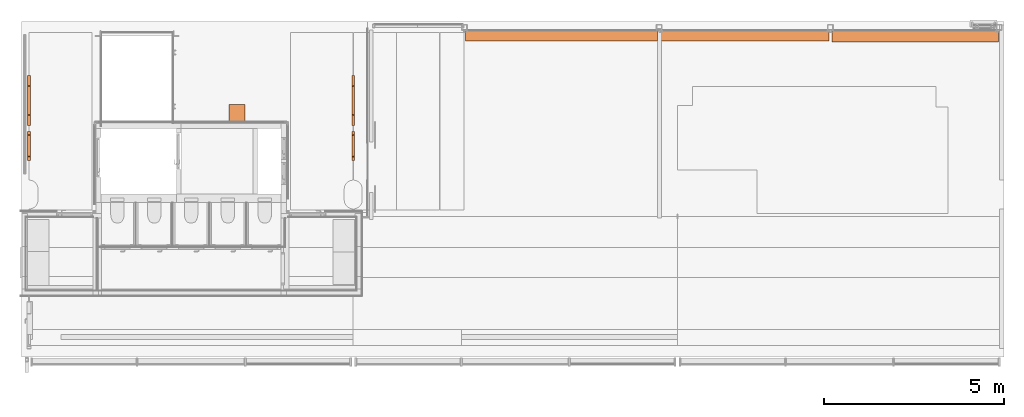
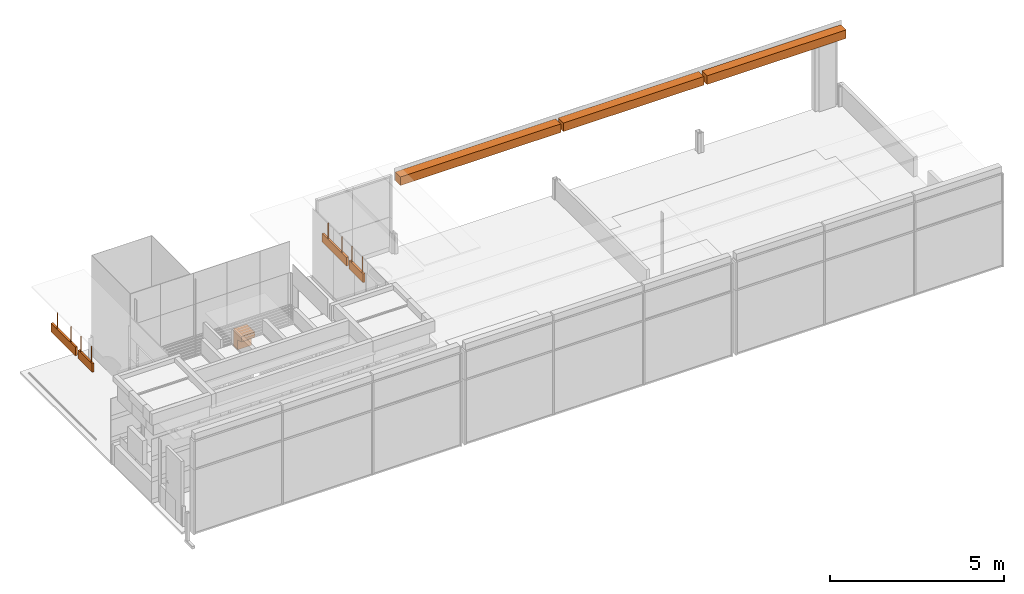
# One storey, part 25 of 26: 8 proxies.
"""IFC2X3 building model written with IfcOpenShell, lengths in millimetres."""

from ifc_helpers import new_model, entity, si_unit, converted_unit, derived_unit, direction, frame, frame_2d, origin, origin_with_axes, origin_2d_with_axis, place, context, subcontext, project, spatial, polyline, rectangle, circle, outline, extrude, source, transform, mapped, material, type_object, element, save


model = new_model("IFC2X3")

# Units and contexts
model_context = context("Model", 3, precision=0.01, world=frame((0.0, 4.29681676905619e-09, 0.0)), true_north=direction((4.01073788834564e-13, 1.0)))
plan_context = context("Plan", 3, precision=0.01, world=frame((0.0, 4.29681676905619e-09, 0.0)), true_north=direction((4.01073788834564e-13, 1.0)))
body_context = subcontext(model_context, "Body", "Model", "MODEL_VIEW")
ifc_project = project(units=[converted_unit("PLANEANGLEUNIT", "DEGREE", entity("IfcPositiveLengthMeasure", 0.0174532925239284), si_unit("PLANEANGLEUNIT", "RADIAN"), dimensions=[0, 0, 0, 0, 0, 0, 0]), si_unit("AREAUNIT", "SQUARE_METRE"), si_unit("LENGTHUNIT", "METRE", prefix="MILLI"), si_unit("MASSUNIT", "GRAM", prefix="KILO"), si_unit("POWERUNIT", "WATT"), si_unit("PRESSUREUNIT", "PASCAL", prefix="KILO"), si_unit("FORCEUNIT", "NEWTON", prefix="KILO"), si_unit("ELECTRICVOLTAGEUNIT", "VOLT"), si_unit("ELECTRICCURRENTUNIT", "AMPERE"), si_unit("THERMODYNAMICTEMPERATUREUNIT", "DEGREE_CELSIUS"), si_unit("TIMEUNIT", "SECOND"), si_unit("VOLUMEUNIT", "CUBIC_METRE"), derived_unit("LINEARVELOCITYUNIT", [(si_unit("LENGTHUNIT", "METRE"), 1), (si_unit("TIMEUNIT", "SECOND"), -1)]), derived_unit("VOLUMETRICFLOWRATEUNIT", [(si_unit("VOLUMEUNIT", "CUBIC_METRE"), 1), (si_unit("TIMEUNIT", "SECOND"), -1)]), derived_unit("THERMALTRANSMITTANCEUNIT", [(si_unit("POWERUNIT", "WATT"), 1), (si_unit("THERMODYNAMICTEMPERATUREUNIT", "KELVIN"), -1), (si_unit("AREAUNIT", "SQUARE_METRE"), -1)]), derived_unit("SOUNDPRESSUREUNIT", [(si_unit("PRESSUREUNIT", "PASCAL"), 1)])], contexts=[model_context, plan_context])

# Site, building, storey
site_placement = place(None, origin_with_axes())
site = spatial("IfcSite", under=ifc_project, at=site_placement, Name="ENGM", CompositionType="ELEMENT")
building_placement = place(site_placement, origin_with_axes())
building = spatial("IfcBuilding", under=site, at=building_placement, Name="TG", CompositionType="ELEMENT")
storey_placement = place(building_placement, frame((0.0, 0.0, 210200.0), z_axis=(0.0, 0.0, 1.0), x_axis=(1.0, 0.0, 0.0)))
storey = spatial("IfcBuildingStorey", under=building, at=storey_placement, Name="Nivå F - 0,7 m", CompositionType="ELEMENT", Elevation=210200.0)

# Proxies
ifc_material = material(Name="<Unnamed>")
building_element_proxy_type_1 = type_object("IfcBuildingElementProxyType", Name="A270 - eksisterende skilt Pendel_T1:A270 - 800x300mm", PredefinedType="NOTDEFINED", material=ifc_material)
shared_shape_1 = source(origin(), body_context, "Body", "SweptSolid", [
    extrude(circle(Radius=15.0, at=frame_2d((6.27883162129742e-16, 3.38395977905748e-14), x_axis=(1.0, 0.0))), frame((300.0, 0.18525956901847, 2550.0), z_axis=(0.0, 0.0, 1.0), x_axis=(0.0, -1.0, 0.0)), (0.0, 0.0, 1.0), 540.0),
    extrude(circle(Radius=15.0, at=frame_2d((6.27883162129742e-16, -3.38395977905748e-14), x_axis=(1.0, 0.0))), frame((-300.0, 0.18525956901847, 2550.0), z_axis=(0.0, 0.0, 1.0), x_axis=(0.0, -1.0, 0.0)), (0.0, 0.0, 1.0), 540.0),
    extrude(rectangle(XDim=800.0, YDim=69.9999999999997, at=origin_2d_with_axis()), frame((0.0, 0.0, 2250.0), z_axis=(0.0, 0.0, 1.0), x_axis=(-1.0, 0.0, 0.0)), (0.0, 0.0, 1.0), 300.0),
])
for number, where, z_axis, x_axis in (
    (1, (322000.000000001, 464051.287500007, 1.30967237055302e-09), (0.0, 0.0, 1.0), (0.0, 1.0, 0.0)),
    (2, (331000.000000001, 464051.287500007, 1.30967237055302e-09), (0.0, 0.0, 1.0), (0.0, 1.0, 0.0)),
):
    element("IfcBuildingElementProxy", number, at=place(storey_placement, frame(where, z_axis=z_axis, x_axis=x_axis)), inside=storey, type_object=building_element_proxy_type_1, material=ifc_material, Name="A270 - eksisterende skilt Pendel_T1:A270 - 800x300mm", ObjectType="A270 - eksisterende skilt Pendel_T1:A270 - 800x300mm", context=body_context, shape_type="MappedRepresentation", body=[
        mapped(shared_shape_1, transform((0.0, 0.0, 0.0), scale=1.0)),
    ])
building_element_proxy_type_2 = type_object("IfcBuildingElementProxyType", Name="A270 - eksisterende skilt Pendel_T1:A270 - 1400x300mm", PredefinedType="NOTDEFINED", material=ifc_material)
shared_shape_2 = source(origin(), body_context, "Body", "SweptSolid", [
    extrude(circle(Radius=15.0, at=frame_2d((6.27883162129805e-16, 1.18505358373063e-30), x_axis=(1.0, 0.0))), frame((400.0, 0.18525956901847, 2550.0), z_axis=(0.0, 0.0, 1.0), x_axis=(0.0, -1.0, 0.0)), (0.0, 0.0, 1.0), 540.0),
    extrude(circle(Radius=15.0, at=frame_2d((6.27883162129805e-16, -1.18505358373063e-30), x_axis=(1.0, 0.0))), frame((-400.0, 0.18525956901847, 2550.0), z_axis=(0.0, 0.0, 1.0), x_axis=(0.0, -1.0, 0.0)), (0.0, 0.0, 1.0), 540.0),
    extrude(rectangle(XDim=1400.0, YDim=69.9999999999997, at=origin_2d_with_axis()), frame((0.0, 0.0, 2250.0), z_axis=(0.0, 0.0, 1.0), x_axis=(-1.0, 0.0, 0.0)), (0.0, 0.0, 1.0), 300.0),
])
for number, where, z_axis, x_axis in (
    (3, (322000.000000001, 465309.637500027, 1.30967237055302e-09), (0.0, 0.0, 1.0), (0.0, 1.0, 0.0)),
    (4, (331000.000000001, 465309.637500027, 1.30967237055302e-09), (0.0, 0.0, 1.0), (0.0, 1.0, 0.0)),
):
    element("IfcBuildingElementProxy", number, at=place(storey_placement, frame(where, z_axis=z_axis, x_axis=x_axis)), inside=storey, type_object=building_element_proxy_type_2, material=ifc_material, Name="A270 - eksisterende skilt Pendel_T1:A270 - 1400x300mm", ObjectType="A270 - eksisterende skilt Pendel_T1:A270 - 1400x300mm", context=body_context, shape_type="MappedRepresentation", body=[
        mapped(shared_shape_2, transform((0.0, 0.0, 0.0), scale=1.0)),
    ])
building_element_proxy_type_3 = type_object("IfcBuildingElementProxyType", Name="A313 Drikkefontene:A313 Drikkefontene", PredefinedType="NOTDEFINED", material=ifc_material)
shared_shape_3 = source(origin(), body_context, "Body", "SweptSolid", [
    extrude(outline(polyline([(-240.0, -273.995717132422), (230.0, -273.995717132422), (230.0, -87.7497323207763), (10.0, -16.2673991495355), (10.0, 326.004282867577), (-240.0, 326.004282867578), (-240.0, -273.995717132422)])), frame((-225.0, -240.0, 626.004282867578), z_axis=(1.0, 0.0, 0.0), x_axis=(0.0, -1.0, 0.0)), (0.0, 0.0, 1.0), 450.0),
])
proxy_1_placement = place(storey_placement, frame((327777.500000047, 465197.272716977, 0.0), z_axis=(0.0, 0.0, 1.0), x_axis=(1.0, 0.0, 0.0)))
element("IfcBuildingElementProxy", 5, at=proxy_1_placement, inside=storey, type_object=building_element_proxy_type_3, material=ifc_material, Name="A313 Drikkefontene:A313 Drikkefontene", ObjectType="A313 Drikkefontene:A313 Drikkefontene", context=body_context, shape_type="MappedRepresentation", body=[
    mapped(shared_shape_3, transform((0.0, 0.0, 0.0), scale=1.0)),
])
building_element_proxy_type_4 = type_object("IfcBuildingElementProxyType", Name="A234 - Gitter:A241 - Gitter 300 x 300_UK_2700_offset 51", PredefinedType="NOTDEFINED", material=ifc_material)
shared_shape_4 = source(origin(), body_context, "Body", "SweptSolid", [
    extrude(rectangle(XDim=4665.0, YDim=300.0, at=origin_2d_with_axis()), frame((2332.50000000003, 100.0, 2650.0), z_axis=(0.0, 0.0, 1.0), x_axis=(-1.0, 0.0, 0.0)), (0.0, 0.0, 1.0), 300.0),
])
proxy_2_placement = place(storey_placement, frame((344200.519754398, 467209.999999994, -100.0), z_axis=(0.0, 0.0, 1.0), x_axis=(-1.0, 0.0, 0.0)))
element("IfcBuildingElementProxy", 6, at=proxy_2_placement, inside=storey, type_object=building_element_proxy_type_4, material=ifc_material, Name="A234 - Gitter:A241 - Gitter 300 x 300_UK_2700_offset 51", ObjectType="A234 - Gitter:A241 - Gitter 300 x 300_UK_2700_offset 51", context=body_context, shape_type="MappedRepresentation", body=[
    mapped(shared_shape_4, transform((0.0, 0.0, 0.0), scale=1.0)),
])
building_element_proxy_type_5 = type_object("IfcBuildingElementProxyType", Name="A234 - Gitter:A241 - Gitter 300 x 300_UK_2700_offset 51", PredefinedType="NOTDEFINED", material=ifc_material)
shared_shape_5 = source(origin(), body_context, "Body", "SweptSolid", [
    extrude(rectangle(XDim=5325.00000000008, YDim=300.0, at=frame_2d((-5.91171556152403e-12, 0.0), x_axis=(1.0, 0.0))), frame((2662.50000000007, 100.0, 2650.0), z_axis=(0.0, 0.0, 1.0), x_axis=(-1.0, 0.0, 0.0)), (0.0, 0.0, 1.0), 300.0),
])
proxy_3_placement = place(storey_placement, frame((339444.88828125, 467209.999999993, -100.0), z_axis=(0.0, 0.0, 1.0), x_axis=(-1.0, 0.0, 0.0)))
element("IfcBuildingElementProxy", 7, at=proxy_3_placement, inside=storey, type_object=building_element_proxy_type_5, material=ifc_material, Name="A234 - Gitter:A241 - Gitter 300 x 300_UK_2700_offset 51", ObjectType="A234 - Gitter:A241 - Gitter 300 x 300_UK_2700_offset 51", context=body_context, shape_type="MappedRepresentation", body=[
    mapped(shared_shape_5, transform((0.0, 0.0, 0.0), scale=1.0)),
])
building_element_proxy_type_6 = type_object("IfcBuildingElementProxyType", Name="A234 - Gitter:A241 - Gitter 300 x 300_UK_2700_offset 51", PredefinedType="NOTDEFINED", material=ifc_material)
shared_shape_6 = source(origin(), body_context, "Body", "SweptSolid", [
    extrude(rectangle(XDim=4625.00000000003, YDim=300.0, at=frame_2d((-7.04858393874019e-12, 0.0), x_axis=(1.0, 0.0))), frame((2312.50000000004, 100.0, 2650.0), z_axis=(0.0, 0.0, 1.0), x_axis=(-1.0, 0.0, 0.0)), (0.0, 0.0, 1.0), 300.0),
])
proxy_4_placement = place(storey_placement, frame((348915.519754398, 467189.999999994, -100.0), z_axis=(0.0, 0.0, 1.0), x_axis=(-1.0, 0.0, 0.0)))
element("IfcBuildingElementProxy", 8, at=proxy_4_placement, inside=storey, type_object=building_element_proxy_type_6, material=ifc_material, Name="A234 - Gitter:A241 - Gitter 300 x 300_UK_2700_offset 51", ObjectType="A234 - Gitter:A241 - Gitter 300 x 300_UK_2700_offset 51", context=body_context, shape_type="MappedRepresentation", body=[
    mapped(shared_shape_6, transform((0.0, 0.0, 0.0), scale=1.0)),
])

save(model, "model.ifc")
